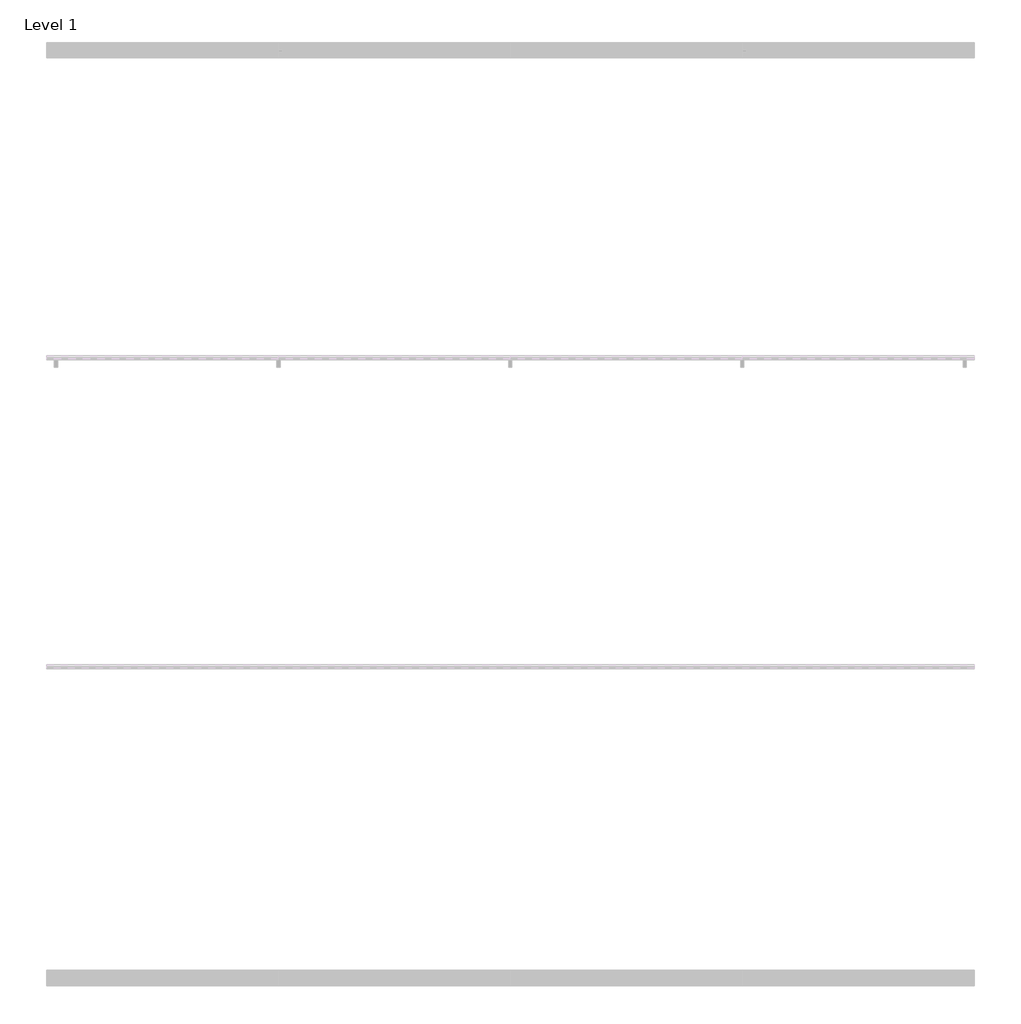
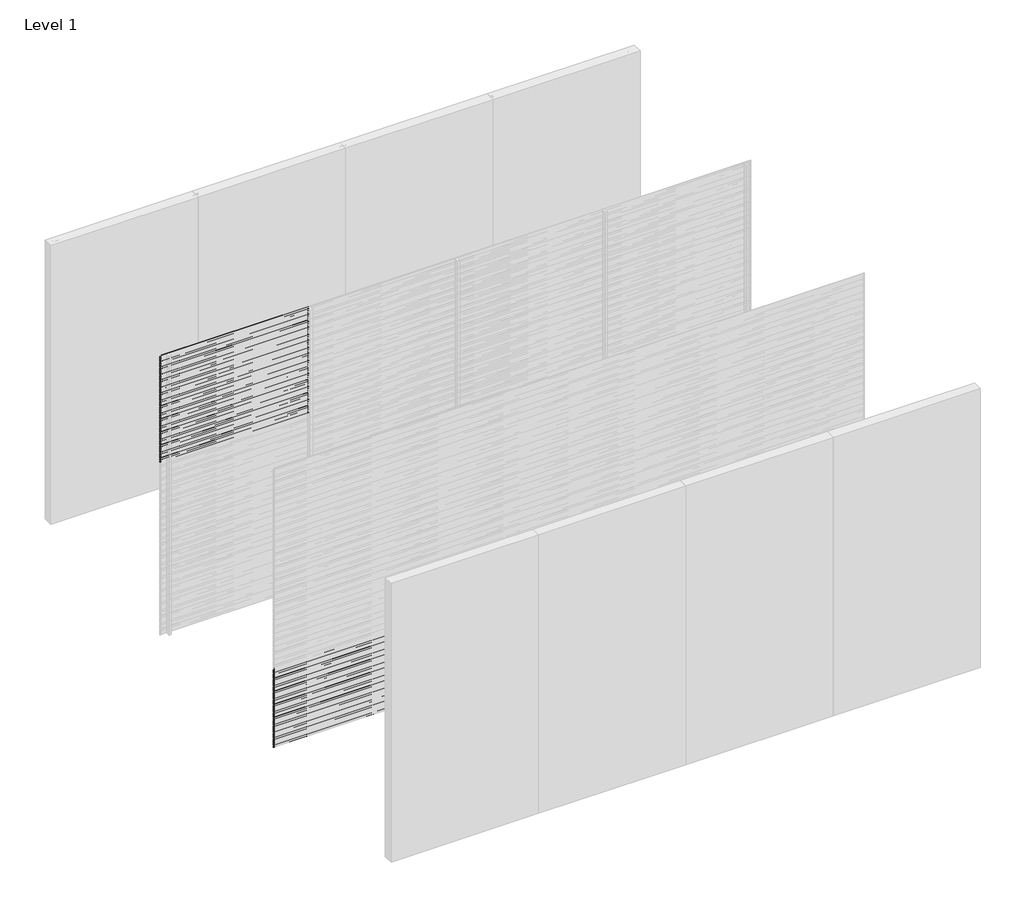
# One storey, part 18 of 31: 99 proxies.
"""IFC4 building model written with IfcOpenShell, lengths in millimetres."""

from ifc_helpers import new_model, si_unit, frame, origin, place, context, project, spatial, polyline, outline, extrude, element, save

model = new_model("IFC4")

# Units and contexts
model_context = context("Model", 3, world=origin())
ifc_project = project(units=[si_unit("LENGTHUNIT", "METRE", prefix="MILLI")], contexts=[model_context])

# Site, building, storey
site = spatial("IfcSite", under=ifc_project)
building = spatial("IfcBuilding", under=site)
storey = spatial("IfcBuildingStorey", under=building, Name="Level 1", Elevation=0.0)

# Proxies
placement = place(None, origin())
element("IfcBuildingElementProxy", 1, Name="Wall Sweeps", at=placement, inside=storey, context=model_context, shape_type="SweptSolid", body=[
    extrude(outline(polyline([(-5995.0, 3000.0), (-5995.0, 2988.942893), (-5976.0, 2973.0), (-5976.0, 2960.0), (-5997.0, 2977.6210923), (-5997.0, 3000.0), (-5995.0, 3000.0)])), frame((0.0, 0.0, 0.0), z_axis=(1.0, 0.0, 0.0), x_axis=(0.0, 1.0, 0.0)), (0.0, 0.0, 1.0), 1500.0),
])
element("IfcBuildingElementProxy", 2, Name="Wall Sweeps", at=placement, inside=storey, context=model_context, shape_type="SweptSolid", body=[
    extrude(outline(polyline([(-5995.0, 2980.0), (-5995.0, 2968.942893), (-5976.0, 2953.0), (-5976.0, 2940.0), (-5997.0, 2957.6210923), (-5997.0, 2980.0), (-5995.0, 2980.0)])), frame((0.0, 0.0, 0.0), z_axis=(1.0, 0.0, 0.0), x_axis=(0.0, 1.0, 0.0)), (0.0, 0.0, 1.0), 1500.0),
])
element("IfcBuildingElementProxy", 3, Name="Wall Sweeps", at=placement, inside=storey, context=model_context, shape_type="SweptSolid", body=[
    extrude(outline(polyline([(-5995.0, 2960.0), (-5995.0, 2948.942893), (-5976.0, 2933.0), (-5976.0, 2920.0), (-5997.0, 2937.6210923), (-5997.0, 2960.0), (-5995.0, 2960.0)])), frame((0.0, 0.0, 0.0), z_axis=(1.0, 0.0, 0.0), x_axis=(0.0, 1.0, 0.0)), (0.0, 0.0, 1.0), 1500.0),
])
element("IfcBuildingElementProxy", 4, Name="Wall Sweeps", at=placement, inside=storey, context=model_context, shape_type="SweptSolid", body=[
    extrude(outline(polyline([(-5995.0, 2940.0), (-5995.0, 2928.942893), (-5976.0, 2913.0), (-5976.0, 2900.0), (-5997.0, 2917.6210923), (-5997.0, 2940.0), (-5995.0, 2940.0)])), frame((0.0, 0.0, 0.0), z_axis=(1.0, 0.0, 0.0), x_axis=(0.0, 1.0, 0.0)), (0.0, 0.0, 1.0), 1500.0),
])
element("IfcBuildingElementProxy", 5, Name="Wall Sweeps", at=placement, inside=storey, context=model_context, shape_type="SweptSolid", body=[
    extrude(outline(polyline([(-5995.0, 2920.0), (-5995.0, 2908.942893), (-5976.0, 2893.0), (-5976.0, 2880.0), (-5997.0, 2897.6210923), (-5997.0, 2920.0), (-5995.0, 2920.0)])), frame((0.0, 0.0, 0.0), z_axis=(1.0, 0.0, 0.0), x_axis=(0.0, 1.0, 0.0)), (0.0, 0.0, 1.0), 1500.0),
])
element("IfcBuildingElementProxy", 6, Name="Wall Sweeps", at=placement, inside=storey, context=model_context, shape_type="SweptSolid", body=[
    extrude(outline(polyline([(-5995.0, 2900.0), (-5995.0, 2888.942893), (-5976.0, 2873.0), (-5976.0, 2860.0), (-5997.0, 2877.6210923), (-5997.0, 2900.0), (-5995.0, 2900.0)])), frame((0.0, 0.0, 0.0), z_axis=(1.0, 0.0, 0.0), x_axis=(0.0, 1.0, 0.0)), (0.0, 0.0, 1.0), 1500.0),
])
element("IfcBuildingElementProxy", 7, Name="Wall Sweeps", at=placement, inside=storey, context=model_context, shape_type="SweptSolid", body=[
    extrude(outline(polyline([(-5995.0, 2880.0), (-5995.0, 2868.942893), (-5976.0, 2853.0), (-5976.0, 2840.0), (-5997.0, 2857.6210923), (-5997.0, 2880.0), (-5995.0, 2880.0)])), frame((0.0, 0.0, 0.0), z_axis=(1.0, 0.0, 0.0), x_axis=(0.0, 1.0, 0.0)), (0.0, 0.0, 1.0), 1500.0),
])
element("IfcBuildingElementProxy", 8, Name="Wall Sweeps", at=placement, inside=storey, context=model_context, shape_type="SweptSolid", body=[
    extrude(outline(polyline([(-5995.0, 2860.0), (-5995.0, 2848.942893), (-5976.0, 2833.0), (-5976.0, 2820.0), (-5997.0, 2837.6210923), (-5997.0, 2860.0), (-5995.0, 2860.0)])), frame((0.0, 0.0, 0.0), z_axis=(1.0, 0.0, 0.0), x_axis=(0.0, 1.0, 0.0)), (0.0, 0.0, 1.0), 1500.0),
])
element("IfcBuildingElementProxy", 9, Name="Wall Sweeps", at=placement, inside=storey, context=model_context, shape_type="SweptSolid", body=[
    extrude(outline(polyline([(-5995.0, 2840.0), (-5995.0, 2828.942893), (-5976.0, 2813.0), (-5976.0, 2800.0), (-5997.0, 2817.6210923), (-5997.0, 2840.0), (-5995.0, 2840.0)])), frame((0.0, 0.0, 0.0), z_axis=(1.0, 0.0, 0.0), x_axis=(0.0, 1.0, 0.0)), (0.0, 0.0, 1.0), 1500.0),
])
element("IfcBuildingElementProxy", 10, Name="Wall Sweeps", at=placement, inside=storey, context=model_context, shape_type="SweptSolid", body=[
    extrude(outline(polyline([(-5995.0, 2820.0), (-5995.0, 2808.942893), (-5976.0, 2793.0), (-5976.0, 2780.0), (-5997.0, 2797.6210923), (-5997.0, 2820.0), (-5995.0, 2820.0)])), frame((0.0, 0.0, 0.0), z_axis=(1.0, 0.0, 0.0), x_axis=(0.0, 1.0, 0.0)), (0.0, 0.0, 1.0), 1500.0),
])
element("IfcBuildingElementProxy", 11, Name="Wall Sweeps", at=placement, inside=storey, context=model_context, shape_type="SweptSolid", body=[
    extrude(outline(polyline([(-5995.0, 2800.0), (-5995.0, 2788.942893), (-5976.0, 2773.0), (-5976.0, 2760.0), (-5997.0, 2777.6210923), (-5997.0, 2800.0), (-5995.0, 2800.0)])), frame((0.0, 0.0, 0.0), z_axis=(1.0, 0.0, 0.0), x_axis=(0.0, 1.0, 0.0)), (0.0, 0.0, 1.0), 1500.0),
])
element("IfcBuildingElementProxy", 12, Name="Wall Sweeps", at=placement, inside=storey, context=model_context, shape_type="SweptSolid", body=[
    extrude(outline(polyline([(-5995.0, 2780.0), (-5995.0, 2768.942893), (-5976.0, 2753.0), (-5976.0, 2740.0), (-5997.0, 2757.6210923), (-5997.0, 2780.0), (-5995.0, 2780.0)])), frame((0.0, 0.0, 0.0), z_axis=(1.0, 0.0, 0.0), x_axis=(0.0, 1.0, 0.0)), (0.0, 0.0, 1.0), 1500.0),
])
element("IfcBuildingElementProxy", 13, Name="Wall Sweeps", at=placement, inside=storey, context=model_context, shape_type="SweptSolid", body=[
    extrude(outline(polyline([(-5995.0, 2760.0), (-5995.0, 2748.942893), (-5976.0, 2733.0), (-5976.0, 2720.0), (-5997.0, 2737.6210923), (-5997.0, 2760.0), (-5995.0, 2760.0)])), frame((0.0, 0.0, 0.0), z_axis=(1.0, 0.0, 0.0), x_axis=(0.0, 1.0, 0.0)), (0.0, 0.0, 1.0), 1500.0),
])
element("IfcBuildingElementProxy", 14, Name="Wall Sweeps", at=placement, inside=storey, context=model_context, shape_type="SweptSolid", body=[
    extrude(outline(polyline([(-5995.0, 2740.0), (-5995.0, 2728.942893), (-5976.0, 2713.0), (-5976.0, 2700.0), (-5997.0, 2717.6210923), (-5997.0, 2740.0), (-5995.0, 2740.0)])), frame((0.0, 0.0, 0.0), z_axis=(1.0, 0.0, 0.0), x_axis=(0.0, 1.0, 0.0)), (0.0, 0.0, 1.0), 1500.0),
])
element("IfcBuildingElementProxy", 15, Name="Wall Sweeps", at=placement, inside=storey, context=model_context, shape_type="SweptSolid", body=[
    extrude(outline(polyline([(-5995.0, 2720.0), (-5995.0, 2708.942893), (-5976.0, 2693.0), (-5976.0, 2680.0), (-5997.0, 2697.6210923), (-5997.0, 2720.0), (-5995.0, 2720.0)])), frame((0.0, 0.0, 0.0), z_axis=(1.0, 0.0, 0.0), x_axis=(0.0, 1.0, 0.0)), (0.0, 0.0, 1.0), 1500.0),
])
element("IfcBuildingElementProxy", 16, Name="Wall Sweeps", at=placement, inside=storey, context=model_context, shape_type="SweptSolid", body=[
    extrude(outline(polyline([(-5995.0, 2700.0), (-5995.0, 2688.942893), (-5976.0, 2673.0), (-5976.0, 2660.0), (-5997.0, 2677.6210923), (-5997.0, 2700.0), (-5995.0, 2700.0)])), frame((0.0, 0.0, 0.0), z_axis=(1.0, 0.0, 0.0), x_axis=(0.0, 1.0, 0.0)), (0.0, 0.0, 1.0), 1500.0),
])
element("IfcBuildingElementProxy", 17, Name="Wall Sweeps", at=placement, inside=storey, context=model_context, shape_type="SweptSolid", body=[
    extrude(outline(polyline([(-5995.0, 2680.0), (-5995.0, 2668.942893), (-5976.0, 2653.0), (-5976.0, 2640.0), (-5997.0, 2657.6210923), (-5997.0, 2680.0), (-5995.0, 2680.0)])), frame((0.0, 0.0, 0.0), z_axis=(1.0, 0.0, 0.0), x_axis=(0.0, 1.0, 0.0)), (0.0, 0.0, 1.0), 1500.0),
])
element("IfcBuildingElementProxy", 18, Name="Wall Sweeps", at=placement, inside=storey, context=model_context, shape_type="SweptSolid", body=[
    extrude(outline(polyline([(-5995.0, 2660.0), (-5995.0, 2648.942893), (-5976.0, 2633.0), (-5976.0, 2620.0), (-5997.0, 2637.6210923), (-5997.0, 2660.0), (-5995.0, 2660.0)])), frame((0.0, 0.0, 0.0), z_axis=(1.0, 0.0, 0.0), x_axis=(0.0, 1.0, 0.0)), (0.0, 0.0, 1.0), 1500.0),
])
element("IfcBuildingElementProxy", 19, Name="Wall Sweeps", at=placement, inside=storey, context=model_context, shape_type="SweptSolid", body=[
    extrude(outline(polyline([(-5995.0, 2640.0), (-5995.0, 2628.942893), (-5976.0, 2613.0), (-5976.0, 2600.0), (-5997.0, 2617.6210923), (-5997.0, 2640.0), (-5995.0, 2640.0)])), frame((0.0, 0.0, 0.0), z_axis=(1.0, 0.0, 0.0), x_axis=(0.0, 1.0, 0.0)), (0.0, 0.0, 1.0), 1500.0),
])
element("IfcBuildingElementProxy", 20, Name="Wall Sweeps", at=placement, inside=storey, context=model_context, shape_type="SweptSolid", body=[
    extrude(outline(polyline([(-5995.0, 2620.0), (-5995.0, 2608.942893), (-5976.0, 2593.0), (-5976.0, 2580.0), (-5997.0, 2597.6210923), (-5997.0, 2620.0), (-5995.0, 2620.0)])), frame((0.0, 0.0, 0.0), z_axis=(1.0, 0.0, 0.0), x_axis=(0.0, 1.0, 0.0)), (0.0, 0.0, 1.0), 1500.0),
])
element("IfcBuildingElementProxy", 21, Name="Wall Sweeps", at=placement, inside=storey, context=model_context, shape_type="SweptSolid", body=[
    extrude(outline(polyline([(-5995.0, 2600.0), (-5995.0, 2588.942893), (-5976.0, 2573.0), (-5976.0, 2560.0), (-5997.0, 2577.6210923), (-5997.0, 2600.0), (-5995.0, 2600.0)])), frame((0.0, 0.0, 0.0), z_axis=(1.0, 0.0, 0.0), x_axis=(0.0, 1.0, 0.0)), (0.0, 0.0, 1.0), 1500.0),
])
element("IfcBuildingElementProxy", 22, Name="Wall Sweeps", at=placement, inside=storey, context=model_context, shape_type="SweptSolid", body=[
    extrude(outline(polyline([(-5995.0, 2580.0), (-5995.0, 2568.942893), (-5976.0, 2553.0), (-5976.0, 2540.0), (-5997.0, 2557.6210923), (-5997.0, 2580.0), (-5995.0, 2580.0)])), frame((0.0, 0.0, 0.0), z_axis=(1.0, 0.0, 0.0), x_axis=(0.0, 1.0, 0.0)), (0.0, 0.0, 1.0), 1500.0),
])
element("IfcBuildingElementProxy", 23, Name="Wall Sweeps", at=placement, inside=storey, context=model_context, shape_type="SweptSolid", body=[
    extrude(outline(polyline([(-5995.0, 2560.0), (-5995.0, 2548.942893), (-5976.0, 2533.0), (-5976.0, 2520.0), (-5997.0, 2537.6210923), (-5997.0, 2560.0), (-5995.0, 2560.0)])), frame((0.0, 0.0, 0.0), z_axis=(1.0, 0.0, 0.0), x_axis=(0.0, 1.0, 0.0)), (0.0, 0.0, 1.0), 1500.0),
])
element("IfcBuildingElementProxy", 24, Name="Wall Sweeps", at=placement, inside=storey, context=model_context, shape_type="SweptSolid", body=[
    extrude(outline(polyline([(-5995.0, 2540.0), (-5995.0, 2528.942893), (-5976.0, 2513.0), (-5976.0, 2500.0), (-5997.0, 2517.6210923), (-5997.0, 2540.0), (-5995.0, 2540.0)])), frame((0.0, 0.0, 0.0), z_axis=(1.0, 0.0, 0.0), x_axis=(0.0, 1.0, 0.0)), (0.0, 0.0, 1.0), 1500.0),
])
element("IfcBuildingElementProxy", 25, Name="Wall Sweeps", at=placement, inside=storey, context=model_context, shape_type="SweptSolid", body=[
    extrude(outline(polyline([(-5995.0, 2520.0), (-5995.0, 2508.942893), (-5976.0, 2493.0), (-5976.0, 2480.0), (-5997.0, 2497.6210923), (-5997.0, 2520.0), (-5995.0, 2520.0)])), frame((0.0, 0.0, 0.0), z_axis=(1.0, 0.0, 0.0), x_axis=(0.0, 1.0, 0.0)), (0.0, 0.0, 1.0), 1500.0),
])
element("IfcBuildingElementProxy", 26, Name="Wall Sweeps", at=placement, inside=storey, context=model_context, shape_type="SweptSolid", body=[
    extrude(outline(polyline([(-5995.0, 2500.0), (-5995.0, 2488.942893), (-5976.0, 2473.0), (-5976.0, 2460.0), (-5997.0, 2477.6210923), (-5997.0, 2500.0), (-5995.0, 2500.0)])), frame((0.0, 0.0, 0.0), z_axis=(1.0, 0.0, 0.0), x_axis=(0.0, 1.0, 0.0)), (0.0, 0.0, 1.0), 1500.0),
])
element("IfcBuildingElementProxy", 27, Name="Wall Sweeps", at=placement, inside=storey, context=model_context, shape_type="SweptSolid", body=[
    extrude(outline(polyline([(-5995.0, 2480.0), (-5995.0, 2468.942893), (-5976.0, 2453.0), (-5976.0, 2440.0), (-5997.0, 2457.6210923), (-5997.0, 2480.0), (-5995.0, 2480.0)])), frame((0.0, 0.0, 0.0), z_axis=(1.0, 0.0, 0.0), x_axis=(0.0, 1.0, 0.0)), (0.0, 0.0, 1.0), 1500.0),
])
element("IfcBuildingElementProxy", 28, Name="Wall Sweeps", at=placement, inside=storey, context=model_context, shape_type="SweptSolid", body=[
    extrude(outline(polyline([(-5995.0, 2460.0), (-5995.0, 2448.942893), (-5976.0, 2433.0), (-5976.0, 2420.0), (-5997.0, 2437.6210923), (-5997.0, 2460.0), (-5995.0, 2460.0)])), frame((0.0, 0.0, 0.0), z_axis=(1.0, 0.0, 0.0), x_axis=(0.0, 1.0, 0.0)), (0.0, 0.0, 1.0), 1500.0),
])
element("IfcBuildingElementProxy", 29, Name="Wall Sweeps", at=placement, inside=storey, context=model_context, shape_type="SweptSolid", body=[
    extrude(outline(polyline([(-5995.0, 2440.0), (-5995.0, 2428.942893), (-5976.0, 2413.0), (-5976.0, 2400.0), (-5997.0, 2417.6210923), (-5997.0, 2440.0), (-5995.0, 2440.0)])), frame((0.0, 0.0, 0.0), z_axis=(1.0, 0.0, 0.0), x_axis=(0.0, 1.0, 0.0)), (0.0, 0.0, 1.0), 1500.0),
])
element("IfcBuildingElementProxy", 30, Name="Wall Sweeps", at=placement, inside=storey, context=model_context, shape_type="SweptSolid", body=[
    extrude(outline(polyline([(-5995.0, 2420.0), (-5995.0, 2408.942893), (-5976.0, 2393.0), (-5976.0, 2380.0), (-5997.0, 2397.6210923), (-5997.0, 2420.0), (-5995.0, 2420.0)])), frame((0.0, 0.0, 0.0), z_axis=(1.0, 0.0, 0.0), x_axis=(0.0, 1.0, 0.0)), (0.0, 0.0, 1.0), 1500.0),
])
element("IfcBuildingElementProxy", 31, Name="Wall Sweeps", at=placement, inside=storey, context=model_context, shape_type="SweptSolid", body=[
    extrude(outline(polyline([(-5995.0, 2400.0), (-5995.0, 2388.942893), (-5976.0, 2373.0), (-5976.0, 2360.0), (-5997.0, 2377.6210923), (-5997.0, 2400.0), (-5995.0, 2400.0)])), frame((0.0, 0.0, 0.0), z_axis=(1.0, 0.0, 0.0), x_axis=(0.0, 1.0, 0.0)), (0.0, 0.0, 1.0), 1500.0),
])
element("IfcBuildingElementProxy", 32, Name="Wall Sweeps", at=placement, inside=storey, context=model_context, shape_type="SweptSolid", body=[
    extrude(outline(polyline([(-5995.0, 2380.0), (-5995.0, 2368.942893), (-5976.0, 2353.0), (-5976.0, 2340.0), (-5997.0, 2357.6210923), (-5997.0, 2380.0), (-5995.0, 2380.0)])), frame((0.0, 0.0, 0.0), z_axis=(1.0, 0.0, 0.0), x_axis=(0.0, 1.0, 0.0)), (0.0, 0.0, 1.0), 1500.0),
])
element("IfcBuildingElementProxy", 33, Name="Wall Sweeps", at=placement, inside=storey, context=model_context, shape_type="SweptSolid", body=[
    extrude(outline(polyline([(-5995.0, 2360.0), (-5995.0, 2348.942893), (-5976.0, 2333.0), (-5976.0, 2320.0), (-5997.0, 2337.6210923), (-5997.0, 2360.0), (-5995.0, 2360.0)])), frame((0.0, 0.0, 0.0), z_axis=(1.0, 0.0, 0.0), x_axis=(0.0, 1.0, 0.0)), (0.0, 0.0, 1.0), 1500.0),
])
element("IfcBuildingElementProxy", 34, Name="Wall Sweeps", at=placement, inside=storey, context=model_context, shape_type="SweptSolid", body=[
    extrude(outline(polyline([(-5995.0, 2340.0), (-5995.0, 2328.942893), (-5976.0, 2313.0), (-5976.0, 2300.0), (-5997.0, 2317.6210923), (-5997.0, 2340.0), (-5995.0, 2340.0)])), frame((0.0, 0.0, 0.0), z_axis=(1.0, 0.0, 0.0), x_axis=(0.0, 1.0, 0.0)), (0.0, 0.0, 1.0), 1500.0),
])
element("IfcBuildingElementProxy", 35, Name="Wall Sweeps", at=placement, inside=storey, context=model_context, shape_type="SweptSolid", body=[
    extrude(outline(polyline([(-5995.0, 2320.0), (-5995.0, 2308.942893), (-5976.0, 2293.0), (-5976.0, 2280.0), (-5997.0, 2297.6210923), (-5997.0, 2320.0), (-5995.0, 2320.0)])), frame((0.0, 0.0, 0.0), z_axis=(1.0, 0.0, 0.0), x_axis=(0.0, 1.0, 0.0)), (0.0, 0.0, 1.0), 1500.0),
])
element("IfcBuildingElementProxy", 36, Name="Wall Sweeps", at=placement, inside=storey, context=model_context, shape_type="SweptSolid", body=[
    extrude(outline(polyline([(-5995.0, 2300.0), (-5995.0, 2288.942893), (-5976.0, 2273.0), (-5976.0, 2260.0), (-5997.0, 2277.6210923), (-5997.0, 2300.0), (-5995.0, 2300.0)])), frame((0.0, 0.0, 0.0), z_axis=(1.0, 0.0, 0.0), x_axis=(0.0, 1.0, 0.0)), (0.0, 0.0, 1.0), 1500.0),
])
element("IfcBuildingElementProxy", 37, Name="Wall Sweeps", at=placement, inside=storey, context=model_context, shape_type="SweptSolid", body=[
    extrude(outline(polyline([(-5995.0, 2280.0), (-5995.0, 2268.942893), (-5976.0, 2253.0), (-5976.0, 2240.0), (-5997.0, 2257.6210923), (-5997.0, 2280.0), (-5995.0, 2280.0)])), frame((0.0, 0.0, 0.0), z_axis=(1.0, 0.0, 0.0), x_axis=(0.0, 1.0, 0.0)), (0.0, 0.0, 1.0), 1500.0),
])
element("IfcBuildingElementProxy", 38, Name="Wall Sweeps", at=placement, inside=storey, context=model_context, shape_type="SweptSolid", body=[
    extrude(outline(polyline([(-5995.0, 2260.0), (-5995.0, 2248.942893), (-5976.0, 2233.0), (-5976.0, 2220.0), (-5997.0, 2237.6210923), (-5997.0, 2260.0), (-5995.0, 2260.0)])), frame((0.0, 0.0, 0.0), z_axis=(1.0, 0.0, 0.0), x_axis=(0.0, 1.0, 0.0)), (0.0, 0.0, 1.0), 1500.0),
])
element("IfcBuildingElementProxy", 39, Name="Wall Sweeps", at=placement, inside=storey, context=model_context, shape_type="SweptSolid", body=[
    extrude(outline(polyline([(-5995.0, 2240.0), (-5995.0, 2228.942893), (-5976.0, 2213.0), (-5976.0, 2200.0), (-5997.0, 2217.6210923), (-5997.0, 2240.0), (-5995.0, 2240.0)])), frame((0.0, 0.0, 0.0), z_axis=(1.0, 0.0, 0.0), x_axis=(0.0, 1.0, 0.0)), (0.0, 0.0, 1.0), 1500.0),
])
element("IfcBuildingElementProxy", 40, Name="Wall Sweeps", at=placement, inside=storey, context=model_context, shape_type="SweptSolid", body=[
    extrude(outline(polyline([(-5995.0, 2220.0), (-5995.0, 2208.942893), (-5976.0, 2193.0), (-5976.0, 2180.0), (-5997.0, 2197.6210923), (-5997.0, 2220.0), (-5995.0, 2220.0)])), frame((0.0, 0.0, 0.0), z_axis=(1.0, 0.0, 0.0), x_axis=(0.0, 1.0, 0.0)), (0.0, 0.0, 1.0), 1500.0),
])
element("IfcBuildingElementProxy", 41, Name="Wall Sweeps", at=placement, inside=storey, context=model_context, shape_type="SweptSolid", body=[
    extrude(outline(polyline([(-5995.0, 2200.0), (-5995.0, 2188.942893), (-5976.0, 2173.0), (-5976.0, 2160.0), (-5997.0, 2177.6210923), (-5997.0, 2200.0), (-5995.0, 2200.0)])), frame((0.0, 0.0, 0.0), z_axis=(1.0, 0.0, 0.0), x_axis=(0.0, 1.0, 0.0)), (0.0, 0.0, 1.0), 1500.0),
])
element("IfcBuildingElementProxy", 42, Name="Wall Sweeps", at=placement, inside=storey, context=model_context, shape_type="SweptSolid", body=[
    extrude(outline(polyline([(-5995.0, 2180.0), (-5995.0, 2168.942893), (-5976.0, 2153.0), (-5976.0, 2140.0), (-5997.0, 2157.6210923), (-5997.0, 2180.0), (-5995.0, 2180.0)])), frame((0.0, 0.0, 0.0), z_axis=(1.0, 0.0, 0.0), x_axis=(0.0, 1.0, 0.0)), (0.0, 0.0, 1.0), 1500.0),
])
element("IfcBuildingElementProxy", 43, Name="Wall Sweeps", at=placement, inside=storey, context=model_context, shape_type="SweptSolid", body=[
    extrude(outline(polyline([(-5995.0, 2160.0), (-5995.0, 2148.942893), (-5976.0, 2133.0), (-5976.0, 2120.0), (-5997.0, 2137.6210923), (-5997.0, 2160.0), (-5995.0, 2160.0)])), frame((0.0, 0.0, 0.0), z_axis=(1.0, 0.0, 0.0), x_axis=(0.0, 1.0, 0.0)), (0.0, 0.0, 1.0), 1500.0),
])
element("IfcBuildingElementProxy", 44, Name="Wall Sweeps", at=placement, inside=storey, context=model_context, shape_type="SweptSolid", body=[
    extrude(outline(polyline([(-5995.0, 2140.0), (-5995.0, 2128.942893), (-5976.0, 2113.0), (-5976.0, 2100.0), (-5997.0, 2117.6210923), (-5997.0, 2140.0), (-5995.0, 2140.0)])), frame((0.0, 0.0, 0.0), z_axis=(1.0, 0.0, 0.0), x_axis=(0.0, 1.0, 0.0)), (0.0, 0.0, 1.0), 1500.0),
])
element("IfcBuildingElementProxy", 45, Name="Wall Sweeps", at=placement, inside=storey, context=model_context, shape_type="SweptSolid", body=[
    extrude(outline(polyline([(-5995.0, 2120.0), (-5995.0, 2108.942893), (-5976.0, 2093.0), (-5976.0, 2080.0), (-5997.0, 2097.6210923), (-5997.0, 2120.0), (-5995.0, 2120.0)])), frame((0.0, 0.0, 0.0), z_axis=(1.0, 0.0, 0.0), x_axis=(0.0, 1.0, 0.0)), (0.0, 0.0, 1.0), 1500.0),
])
element("IfcBuildingElementProxy", 46, Name="Wall Sweeps", at=placement, inside=storey, context=model_context, shape_type="SweptSolid", body=[
    extrude(outline(polyline([(-5995.0, 2100.0), (-5995.0, 2088.942893), (-5976.0, 2073.0), (-5976.0, 2060.0), (-5997.0, 2077.6210923), (-5997.0, 2100.0), (-5995.0, 2100.0)])), frame((0.0, 0.0, 0.0), z_axis=(1.0, 0.0, 0.0), x_axis=(0.0, 1.0, 0.0)), (0.0, 0.0, 1.0), 1500.0),
])
element("IfcBuildingElementProxy", 47, Name="Wall Sweeps", at=placement, inside=storey, context=model_context, shape_type="SweptSolid", body=[
    extrude(outline(polyline([(-5995.0, 2080.0), (-5995.0, 2068.942893), (-5976.0, 2053.0), (-5976.0, 2040.0), (-5997.0, 2057.6210923), (-5997.0, 2080.0), (-5995.0, 2080.0)])), frame((0.0, 0.0, 0.0), z_axis=(1.0, 0.0, 0.0), x_axis=(0.0, 1.0, 0.0)), (0.0, 0.0, 1.0), 1500.0),
])
element("IfcBuildingElementProxy", 48, Name="Wall Sweeps", at=placement, inside=storey, context=model_context, shape_type="SweptSolid", body=[
    extrude(outline(polyline([(-5995.0, 2060.0), (-5995.0, 2048.942893), (-5976.0, 2033.0), (-5976.0, 2020.0), (-5997.0, 2037.6210923), (-5997.0, 2060.0), (-5995.0, 2060.0)])), frame((0.0, 0.0, 0.0), z_axis=(1.0, 0.0, 0.0), x_axis=(0.0, 1.0, 0.0)), (0.0, 0.0, 1.0), 1500.0),
])
element("IfcBuildingElementProxy", 49, Name="Wall Sweeps", at=placement, inside=storey, context=model_context, shape_type="SweptSolid", body=[
    extrude(outline(polyline([(-5995.0, 2040.0), (-5995.0, 2028.942893), (-5976.0, 2013.0), (-5976.0, 2000.0), (-5997.0, 2017.6210923), (-5997.0, 2040.0), (-5995.0, 2040.0)])), frame((0.0, 0.0, 0.0), z_axis=(1.0, 0.0, 0.0), x_axis=(0.0, 1.0, 0.0)), (0.0, 0.0, 1.0), 1500.0),
])
element("IfcBuildingElementProxy", 50, Name="Wall Sweeps", at=placement, inside=storey, context=model_context, shape_type="SweptSolid", body=[
    extrude(outline(polyline([(-5995.0, 2020.0), (-5995.0, 2008.942893), (-5976.0, 1993.0), (-5976.0, 1980.0), (-5997.0, 1997.6210923), (-5997.0, 2020.0), (-5995.0, 2020.0)])), frame((0.0, 0.0, 0.0), z_axis=(1.0, 0.0, 0.0), x_axis=(0.0, 1.0, 0.0)), (0.0, 0.0, 1.0), 1500.0),
])
element("IfcBuildingElementProxy", 51, Name="Wall Sweeps", at=placement, inside=storey, context=model_context, shape_type="SweptSolid", body=[
    extrude(outline(polyline([(-5995.0, 2000.0), (-5995.0, 1988.942893), (-5976.0, 1973.0), (-5976.0, 1960.0), (-5997.0, 1977.6210923), (-5997.0, 2000.0), (-5995.0, 2000.0)])), frame((0.0, 0.0, 0.0), z_axis=(1.0, 0.0, 0.0), x_axis=(0.0, 1.0, 0.0)), (0.0, 0.0, 1.0), 1500.0),
])
element("IfcBuildingElementProxy", 52, Name="Wall Sweeps", at=placement, inside=storey, context=model_context, shape_type="SweptSolid", body=[
    extrude(outline(polyline([(-5995.0, 1980.0), (-5995.0, 1968.942893), (-5976.0, 1953.0), (-5976.0, 1940.0), (-5997.0, 1957.6210923), (-5997.0, 1980.0), (-5995.0, 1980.0)])), frame((0.0, 0.0, 0.0), z_axis=(1.0, 0.0, 0.0), x_axis=(0.0, 1.0, 0.0)), (0.0, 0.0, 1.0), 1500.0),
])
element("IfcBuildingElementProxy", 53, Name="Wall Sweeps", at=placement, inside=storey, context=model_context, shape_type="SweptSolid", body=[
    extrude(outline(polyline([(-5995.0, 1960.0), (-5995.0, 1948.942893), (-5976.0, 1933.0), (-5976.0, 1920.0), (-5997.0, 1937.6210923), (-5997.0, 1960.0), (-5995.0, 1960.0)])), frame((0.0, 0.0, 0.0), z_axis=(1.0, 0.0, 0.0), x_axis=(0.0, 1.0, 0.0)), (0.0, 0.0, 1.0), 1500.0),
])
element("IfcBuildingElementProxy", 54, Name="Wall Sweeps", at=placement, inside=storey, context=model_context, shape_type="SweptSolid", body=[
    extrude(outline(polyline([(-5995.0, 1940.0), (-5995.0, 1928.942893), (-5976.0, 1913.0), (-5976.0, 1900.0), (-5997.0, 1917.6210923), (-5997.0, 1940.0), (-5995.0, 1940.0)])), frame((0.0, 0.0, 0.0), z_axis=(1.0, 0.0, 0.0), x_axis=(0.0, 1.0, 0.0)), (0.0, 0.0, 1.0), 1500.0),
])
element("IfcBuildingElementProxy", 55, Name="Wall Sweeps", at=placement, inside=storey, context=model_context, shape_type="SweptSolid", body=[
    extrude(outline(polyline([(-5995.0, 1920.0), (-5995.0, 1908.942893), (-5976.0, 1893.0), (-5976.0, 1880.0), (-5997.0, 1897.6210923), (-5997.0, 1920.0), (-5995.0, 1920.0)])), frame((0.0, 0.0, 0.0), z_axis=(1.0, 0.0, 0.0), x_axis=(0.0, 1.0, 0.0)), (0.0, 0.0, 1.0), 1500.0),
])
element("IfcBuildingElementProxy", 56, Name="Wall Sweeps", at=placement, inside=storey, context=model_context, shape_type="SweptSolid", body=[
    extrude(outline(polyline([(-5995.0, 1900.0), (-5995.0, 1888.942893), (-5976.0, 1873.0), (-5976.0, 1860.0), (-5997.0, 1877.6210923), (-5997.0, 1900.0), (-5995.0, 1900.0)])), frame((0.0, 0.0, 0.0), z_axis=(1.0, 0.0, 0.0), x_axis=(0.0, 1.0, 0.0)), (0.0, 0.0, 1.0), 1500.0),
])
element("IfcBuildingElementProxy", 57, Name="Wall Sweeps", at=placement, inside=storey, context=model_context, shape_type="SweptSolid", body=[
    extrude(outline(polyline([(-5995.0, 1880.0), (-5995.0, 1868.942893), (-5976.0, 1853.0), (-5976.0, 1840.0), (-5997.0, 1857.6210923), (-5997.0, 1880.0), (-5995.0, 1880.0)])), frame((0.0, 0.0, 0.0), z_axis=(1.0, 0.0, 0.0), x_axis=(0.0, 1.0, 0.0)), (0.0, 0.0, 1.0), 1500.0),
])
element("IfcBuildingElementProxy", 58, Name="Wall Sweeps", at=placement, inside=storey, context=model_context, shape_type="SweptSolid", body=[
    extrude(outline(polyline([(-7995.0, 840.0), (-7995.0, 828.942893), (-7976.0, 813.0), (-7976.0, 800.0), (-7997.0, 817.6210923), (-7997.0, 840.0), (-7995.0, 840.0)])), frame((0.0, 0.0, 0.0), z_axis=(1.0, 0.0, 0.0), x_axis=(0.0, 1.0, 0.0)), (0.0, 0.0, 1.0), 6000.0),
])
element("IfcBuildingElementProxy", 59, Name="Wall Sweeps", at=placement, inside=storey, context=model_context, shape_type="SweptSolid", body=[
    extrude(outline(polyline([(-7995.0, 820.0), (-7995.0, 808.942893), (-7976.0, 793.0), (-7976.0, 780.0), (-7997.0, 797.6210923), (-7997.0, 820.0), (-7995.0, 820.0)])), frame((0.0, 0.0, 0.0), z_axis=(1.0, 0.0, 0.0), x_axis=(0.0, 1.0, 0.0)), (0.0, 0.0, 1.0), 6000.0),
])
element("IfcBuildingElementProxy", 60, Name="Wall Sweeps", at=placement, inside=storey, context=model_context, shape_type="SweptSolid", body=[
    extrude(outline(polyline([(-7995.0, 800.0), (-7995.0, 788.942893), (-7976.0, 773.0), (-7976.0, 760.0), (-7997.0, 777.6210923), (-7997.0, 800.0), (-7995.0, 800.0)])), frame((0.0, 0.0, 0.0), z_axis=(1.0, 0.0, 0.0), x_axis=(0.0, 1.0, 0.0)), (0.0, 0.0, 1.0), 6000.0),
])
element("IfcBuildingElementProxy", 61, Name="Wall Sweeps", at=placement, inside=storey, context=model_context, shape_type="SweptSolid", body=[
    extrude(outline(polyline([(-7995.0, 780.0), (-7995.0, 768.942893), (-7976.0, 753.0), (-7976.0, 740.0), (-7997.0, 757.6210923), (-7997.0, 780.0), (-7995.0, 780.0)])), frame((0.0, 0.0, 0.0), z_axis=(1.0, 0.0, 0.0), x_axis=(0.0, 1.0, 0.0)), (0.0, 0.0, 1.0), 6000.0),
])
element("IfcBuildingElementProxy", 62, Name="Wall Sweeps", at=placement, inside=storey, context=model_context, shape_type="SweptSolid", body=[
    extrude(outline(polyline([(-7995.0, 760.0), (-7995.0, 748.942893), (-7976.0, 733.0), (-7976.0, 720.0), (-7997.0, 737.6210923), (-7997.0, 760.0), (-7995.0, 760.0)])), frame((0.0, 0.0, 0.0), z_axis=(1.0, 0.0, 0.0), x_axis=(0.0, 1.0, 0.0)), (0.0, 0.0, 1.0), 6000.0),
])
element("IfcBuildingElementProxy", 63, Name="Wall Sweeps", at=placement, inside=storey, context=model_context, shape_type="SweptSolid", body=[
    extrude(outline(polyline([(-7995.0, 740.0), (-7995.0, 728.942893), (-7976.0, 713.0), (-7976.0, 700.0), (-7997.0, 717.6210923), (-7997.0, 740.0), (-7995.0, 740.0)])), frame((0.0, 0.0, 0.0), z_axis=(1.0, 0.0, 0.0), x_axis=(0.0, 1.0, 0.0)), (0.0, 0.0, 1.0), 6000.0),
])
element("IfcBuildingElementProxy", 64, Name="Wall Sweeps", at=placement, inside=storey, context=model_context, shape_type="SweptSolid", body=[
    extrude(outline(polyline([(-7995.0, 720.0), (-7995.0, 708.942893), (-7976.0, 693.0), (-7976.0, 680.0), (-7997.0, 697.6210923), (-7997.0, 720.0), (-7995.0, 720.0)])), frame((0.0, 0.0, 0.0), z_axis=(1.0, 0.0, 0.0), x_axis=(0.0, 1.0, 0.0)), (0.0, 0.0, 1.0), 6000.0),
])
element("IfcBuildingElementProxy", 65, Name="Wall Sweeps", at=placement, inside=storey, context=model_context, shape_type="SweptSolid", body=[
    extrude(outline(polyline([(-7995.0, 700.0), (-7995.0, 688.942893), (-7976.0, 673.0), (-7976.0, 660.0), (-7997.0, 677.6210923), (-7997.0, 700.0), (-7995.0, 700.0)])), frame((0.0, 0.0, 0.0), z_axis=(1.0, 0.0, 0.0), x_axis=(0.0, 1.0, 0.0)), (0.0, 0.0, 1.0), 6000.0),
])
element("IfcBuildingElementProxy", 66, Name="Wall Sweeps", at=placement, inside=storey, context=model_context, shape_type="SweptSolid", body=[
    extrude(outline(polyline([(-7995.0, 680.0), (-7995.0, 668.942893), (-7976.0, 653.0), (-7976.0, 640.0), (-7997.0, 657.6210923), (-7997.0, 680.0), (-7995.0, 680.0)])), frame((0.0, 0.0, 0.0), z_axis=(1.0, 0.0, 0.0), x_axis=(0.0, 1.0, 0.0)), (0.0, 0.0, 1.0), 6000.0),
])
element("IfcBuildingElementProxy", 67, Name="Wall Sweeps", at=placement, inside=storey, context=model_context, shape_type="SweptSolid", body=[
    extrude(outline(polyline([(-7995.0, 660.0), (-7995.0, 648.942893), (-7976.0, 633.0), (-7976.0, 620.0), (-7997.0, 637.6210923), (-7997.0, 660.0), (-7995.0, 660.0)])), frame((0.0, 0.0, 0.0), z_axis=(1.0, 0.0, 0.0), x_axis=(0.0, 1.0, 0.0)), (0.0, 0.0, 1.0), 6000.0),
])
element("IfcBuildingElementProxy", 68, Name="Wall Sweeps", at=placement, inside=storey, context=model_context, shape_type="SweptSolid", body=[
    extrude(outline(polyline([(-7995.0, 640.0), (-7995.0, 628.942893), (-7976.0, 613.0), (-7976.0, 600.0), (-7997.0, 617.6210923), (-7997.0, 640.0), (-7995.0, 640.0)])), frame((0.0, 0.0, 0.0), z_axis=(1.0, 0.0, 0.0), x_axis=(0.0, 1.0, 0.0)), (0.0, 0.0, 1.0), 6000.0),
])
element("IfcBuildingElementProxy", 69, Name="Wall Sweeps", at=placement, inside=storey, context=model_context, shape_type="SweptSolid", body=[
    extrude(outline(polyline([(-7995.0, 620.0), (-7995.0, 608.942893), (-7976.0, 593.0), (-7976.0, 580.0), (-7997.0, 597.6210923), (-7997.0, 620.0), (-7995.0, 620.0)])), frame((0.0, 0.0, 0.0), z_axis=(1.0, 0.0, 0.0), x_axis=(0.0, 1.0, 0.0)), (0.0, 0.0, 1.0), 6000.0),
])
element("IfcBuildingElementProxy", 70, Name="Wall Sweeps", at=placement, inside=storey, context=model_context, shape_type="SweptSolid", body=[
    extrude(outline(polyline([(-7995.0, 600.0), (-7995.0, 588.942893), (-7976.0, 573.0), (-7976.0, 560.0), (-7997.0, 577.6210923), (-7997.0, 600.0), (-7995.0, 600.0)])), frame((0.0, 0.0, 0.0), z_axis=(1.0, 0.0, 0.0), x_axis=(0.0, 1.0, 0.0)), (0.0, 0.0, 1.0), 6000.0),
])
element("IfcBuildingElementProxy", 71, Name="Wall Sweeps", at=placement, inside=storey, context=model_context, shape_type="SweptSolid", body=[
    extrude(outline(polyline([(-7995.0, 580.0), (-7995.0, 568.942893), (-7976.0, 553.0), (-7976.0, 540.0), (-7997.0, 557.6210923), (-7997.0, 580.0), (-7995.0, 580.0)])), frame((0.0, 0.0, 0.0), z_axis=(1.0, 0.0, 0.0), x_axis=(0.0, 1.0, 0.0)), (0.0, 0.0, 1.0), 6000.0),
])
element("IfcBuildingElementProxy", 72, Name="Wall Sweeps", at=placement, inside=storey, context=model_context, shape_type="SweptSolid", body=[
    extrude(outline(polyline([(-7995.0, 560.0), (-7995.0, 548.942893), (-7976.0, 533.0), (-7976.0, 520.0), (-7997.0, 537.6210923), (-7997.0, 560.0), (-7995.0, 560.0)])), frame((0.0, 0.0, 0.0), z_axis=(1.0, 0.0, 0.0), x_axis=(0.0, 1.0, 0.0)), (0.0, 0.0, 1.0), 6000.0),
])
element("IfcBuildingElementProxy", 73, Name="Wall Sweeps", at=placement, inside=storey, context=model_context, shape_type="SweptSolid", body=[
    extrude(outline(polyline([(-7995.0, 540.0), (-7995.0, 528.942893), (-7976.0, 513.0), (-7976.0, 500.0), (-7997.0, 517.6210923), (-7997.0, 540.0), (-7995.0, 540.0)])), frame((0.0, 0.0, 0.0), z_axis=(1.0, 0.0, 0.0), x_axis=(0.0, 1.0, 0.0)), (0.0, 0.0, 1.0), 6000.0),
])
element("IfcBuildingElementProxy", 74, Name="Wall Sweeps", at=placement, inside=storey, context=model_context, shape_type="SweptSolid", body=[
    extrude(outline(polyline([(-7995.0, 520.0), (-7995.0, 508.942893), (-7976.0, 493.0), (-7976.0, 480.0), (-7997.0, 497.6210923), (-7997.0, 520.0), (-7995.0, 520.0)])), frame((0.0, 0.0, 0.0), z_axis=(1.0, 0.0, 0.0), x_axis=(0.0, 1.0, 0.0)), (0.0, 0.0, 1.0), 6000.0),
])
element("IfcBuildingElementProxy", 75, Name="Wall Sweeps", at=placement, inside=storey, context=model_context, shape_type="SweptSolid", body=[
    extrude(outline(polyline([(-7995.0, 500.0), (-7995.0, 488.942893), (-7976.0, 473.0), (-7976.0, 460.0), (-7997.0, 477.6210923), (-7997.0, 500.0), (-7995.0, 500.0)])), frame((0.0, 0.0, 0.0), z_axis=(1.0, 0.0, 0.0), x_axis=(0.0, 1.0, 0.0)), (0.0, 0.0, 1.0), 6000.0),
])
element("IfcBuildingElementProxy", 76, Name="Wall Sweeps", at=placement, inside=storey, context=model_context, shape_type="SweptSolid", body=[
    extrude(outline(polyline([(-7995.0, 480.0), (-7995.0, 468.942893), (-7976.0, 453.0), (-7976.0, 440.0), (-7997.0, 457.6210923), (-7997.0, 480.0), (-7995.0, 480.0)])), frame((0.0, 0.0, 0.0), z_axis=(1.0, 0.0, 0.0), x_axis=(0.0, 1.0, 0.0)), (0.0, 0.0, 1.0), 6000.0),
])
element("IfcBuildingElementProxy", 77, Name="Wall Sweeps", at=placement, inside=storey, context=model_context, shape_type="SweptSolid", body=[
    extrude(outline(polyline([(-7995.0, 460.0), (-7995.0, 448.942893), (-7976.0, 433.0), (-7976.0, 420.0), (-7997.0, 437.6210923), (-7997.0, 460.0), (-7995.0, 460.0)])), frame((0.0, 0.0, 0.0), z_axis=(1.0, 0.0, 0.0), x_axis=(0.0, 1.0, 0.0)), (0.0, 0.0, 1.0), 6000.0),
])
element("IfcBuildingElementProxy", 78, Name="Wall Sweeps", at=placement, inside=storey, context=model_context, shape_type="SweptSolid", body=[
    extrude(outline(polyline([(-7995.0, 440.0), (-7995.0, 428.942893), (-7976.0, 413.0), (-7976.0, 400.0), (-7997.0, 417.6210923), (-7997.0, 440.0), (-7995.0, 440.0)])), frame((0.0, 0.0, 0.0), z_axis=(1.0, 0.0, 0.0), x_axis=(0.0, 1.0, 0.0)), (0.0, 0.0, 1.0), 6000.0),
])
element("IfcBuildingElementProxy", 79, Name="Wall Sweeps", at=placement, inside=storey, context=model_context, shape_type="SweptSolid", body=[
    extrude(outline(polyline([(-7995.0, 420.0), (-7995.0, 408.942893), (-7976.0, 393.0), (-7976.0, 380.0), (-7997.0, 397.6210923), (-7997.0, 420.0), (-7995.0, 420.0)])), frame((0.0, 0.0, 0.0), z_axis=(1.0, 0.0, 0.0), x_axis=(0.0, 1.0, 0.0)), (0.0, 0.0, 1.0), 6000.0),
])
element("IfcBuildingElementProxy", 80, Name="Wall Sweeps", at=placement, inside=storey, context=model_context, shape_type="SweptSolid", body=[
    extrude(outline(polyline([(-7995.0, 400.0), (-7995.0, 388.942893), (-7976.0, 373.0), (-7976.0, 360.0), (-7997.0, 377.6210923), (-7997.0, 400.0), (-7995.0, 400.0)])), frame((0.0, 0.0, 0.0), z_axis=(1.0, 0.0, 0.0), x_axis=(0.0, 1.0, 0.0)), (0.0, 0.0, 1.0), 6000.0),
])
element("IfcBuildingElementProxy", 81, Name="Wall Sweeps", at=placement, inside=storey, context=model_context, shape_type="SweptSolid", body=[
    extrude(outline(polyline([(-7995.0, 380.0), (-7995.0, 368.942893), (-7976.0, 353.0), (-7976.0, 340.0), (-7997.0, 357.6210923), (-7997.0, 380.0), (-7995.0, 380.0)])), frame((0.0, 0.0, 0.0), z_axis=(1.0, 0.0, 0.0), x_axis=(0.0, 1.0, 0.0)), (0.0, 0.0, 1.0), 6000.0),
])
element("IfcBuildingElementProxy", 82, Name="Wall Sweeps", at=placement, inside=storey, context=model_context, shape_type="SweptSolid", body=[
    extrude(outline(polyline([(-7995.0, 360.0), (-7995.0, 348.942893), (-7976.0, 333.0), (-7976.0, 320.0), (-7997.0, 337.6210923), (-7997.0, 360.0), (-7995.0, 360.0)])), frame((0.0, 0.0, 0.0), z_axis=(1.0, 0.0, 0.0), x_axis=(0.0, 1.0, 0.0)), (0.0, 0.0, 1.0), 6000.0),
])
element("IfcBuildingElementProxy", 83, Name="Wall Sweeps", at=placement, inside=storey, context=model_context, shape_type="SweptSolid", body=[
    extrude(outline(polyline([(-7995.0, 340.0), (-7995.0, 328.942893), (-7976.0, 313.0), (-7976.0, 300.0), (-7997.0, 317.6210923), (-7997.0, 340.0), (-7995.0, 340.0)])), frame((0.0, 0.0, 0.0), z_axis=(1.0, 0.0, 0.0), x_axis=(0.0, 1.0, 0.0)), (0.0, 0.0, 1.0), 6000.0),
])
element("IfcBuildingElementProxy", 84, Name="Wall Sweeps", at=placement, inside=storey, context=model_context, shape_type="SweptSolid", body=[
    extrude(outline(polyline([(-7995.0, 320.0), (-7995.0, 308.942893), (-7976.0, 293.0), (-7976.0, 280.0), (-7997.0, 297.6210923), (-7997.0, 320.0), (-7995.0, 320.0)])), frame((0.0, 0.0, 0.0), z_axis=(1.0, 0.0, 0.0), x_axis=(0.0, 1.0, 0.0)), (0.0, 0.0, 1.0), 6000.0),
])
element("IfcBuildingElementProxy", 85, Name="Wall Sweeps", at=placement, inside=storey, context=model_context, shape_type="SweptSolid", body=[
    extrude(outline(polyline([(-7995.0, 300.0), (-7995.0, 288.942893), (-7976.0, 273.0), (-7976.0, 260.0), (-7997.0, 277.6210923), (-7997.0, 300.0), (-7995.0, 300.0)])), frame((0.0, 0.0, 0.0), z_axis=(1.0, 0.0, 0.0), x_axis=(0.0, 1.0, 0.0)), (0.0, 0.0, 1.0), 6000.0),
])
element("IfcBuildingElementProxy", 86, Name="Wall Sweeps", at=placement, inside=storey, context=model_context, shape_type="SweptSolid", body=[
    extrude(outline(polyline([(-7995.0, 280.0), (-7995.0, 268.942893), (-7976.0, 253.0), (-7976.0, 240.0), (-7997.0, 257.6210923), (-7997.0, 280.0), (-7995.0, 280.0)])), frame((0.0, 0.0, 0.0), z_axis=(1.0, 0.0, 0.0), x_axis=(0.0, 1.0, 0.0)), (0.0, 0.0, 1.0), 6000.0),
])
element("IfcBuildingElementProxy", 87, Name="Wall Sweeps", at=placement, inside=storey, context=model_context, shape_type="SweptSolid", body=[
    extrude(outline(polyline([(-7995.0, 260.0), (-7995.0, 248.942893), (-7976.0, 233.0), (-7976.0, 220.0), (-7997.0, 237.6210923), (-7997.0, 260.0), (-7995.0, 260.0)])), frame((0.0, 0.0, 0.0), z_axis=(1.0, 0.0, 0.0), x_axis=(0.0, 1.0, 0.0)), (0.0, 0.0, 1.0), 6000.0),
])
element("IfcBuildingElementProxy", 88, Name="Wall Sweeps", at=placement, inside=storey, context=model_context, shape_type="SweptSolid", body=[
    extrude(outline(polyline([(-7995.0, 240.0), (-7995.0, 228.942893), (-7976.0, 213.0), (-7976.0, 200.0), (-7997.0, 217.6210923), (-7997.0, 240.0), (-7995.0, 240.0)])), frame((0.0, 0.0, 0.0), z_axis=(1.0, 0.0, 0.0), x_axis=(0.0, 1.0, 0.0)), (0.0, 0.0, 1.0), 6000.0),
])
element("IfcBuildingElementProxy", 89, Name="Wall Sweeps", at=placement, inside=storey, context=model_context, shape_type="SweptSolid", body=[
    extrude(outline(polyline([(-7995.0, 220.0), (-7995.0, 208.942893), (-7976.0, 193.0), (-7976.0, 180.0), (-7997.0, 197.6210923), (-7997.0, 220.0), (-7995.0, 220.0)])), frame((0.0, 0.0, 0.0), z_axis=(1.0, 0.0, 0.0), x_axis=(0.0, 1.0, 0.0)), (0.0, 0.0, 1.0), 6000.0),
])
element("IfcBuildingElementProxy", 90, Name="Wall Sweeps", at=placement, inside=storey, context=model_context, shape_type="SweptSolid", body=[
    extrude(outline(polyline([(-7995.0, 200.0), (-7995.0, 188.942893), (-7976.0, 173.0), (-7976.0, 160.0), (-7997.0, 177.6210923), (-7997.0, 200.0), (-7995.0, 200.0)])), frame((0.0, 0.0, 0.0), z_axis=(1.0, 0.0, 0.0), x_axis=(0.0, 1.0, 0.0)), (0.0, 0.0, 1.0), 6000.0),
])
element("IfcBuildingElementProxy", 91, Name="Wall Sweeps", at=placement, inside=storey, context=model_context, shape_type="SweptSolid", body=[
    extrude(outline(polyline([(-7995.0, 180.0), (-7995.0, 168.942893), (-7976.0, 153.0), (-7976.0, 140.0), (-7997.0, 157.6210923), (-7997.0, 180.0), (-7995.0, 180.0)])), frame((0.0, 0.0, 0.0), z_axis=(1.0, 0.0, 0.0), x_axis=(0.0, 1.0, 0.0)), (0.0, 0.0, 1.0), 6000.0),
])
element("IfcBuildingElementProxy", 92, Name="Wall Sweeps", at=placement, inside=storey, context=model_context, shape_type="SweptSolid", body=[
    extrude(outline(polyline([(-7995.0, 160.0), (-7995.0, 148.942893), (-7976.0, 133.0), (-7976.0, 120.0), (-7997.0, 137.6210923), (-7997.0, 160.0), (-7995.0, 160.0)])), frame((0.0, 0.0, 0.0), z_axis=(1.0, 0.0, 0.0), x_axis=(0.0, 1.0, 0.0)), (0.0, 0.0, 1.0), 6000.0),
])
element("IfcBuildingElementProxy", 93, Name="Wall Sweeps", at=placement, inside=storey, context=model_context, shape_type="SweptSolid", body=[
    extrude(outline(polyline([(-7995.0, 140.0), (-7995.0, 128.942893), (-7976.0, 113.0), (-7976.0, 100.0), (-7997.0, 117.6210923), (-7997.0, 140.0), (-7995.0, 140.0)])), frame((0.0, 0.0, 0.0), z_axis=(1.0, 0.0, 0.0), x_axis=(0.0, 1.0, 0.0)), (0.0, 0.0, 1.0), 6000.0),
])
element("IfcBuildingElementProxy", 94, Name="Wall Sweeps", at=placement, inside=storey, context=model_context, shape_type="SweptSolid", body=[
    extrude(outline(polyline([(-7995.0, 120.0), (-7995.0, 108.942893), (-7976.0, 93.0), (-7976.0, 80.0), (-7997.0, 97.6210923), (-7997.0, 120.0), (-7995.0, 120.0)])), frame((0.0, 0.0, 0.0), z_axis=(1.0, 0.0, 0.0), x_axis=(0.0, 1.0, 0.0)), (0.0, 0.0, 1.0), 6000.0),
])
element("IfcBuildingElementProxy", 95, Name="Wall Sweeps", at=placement, inside=storey, context=model_context, shape_type="SweptSolid", body=[
    extrude(outline(polyline([(-7995.0, 100.0), (-7995.0, 88.942893), (-7976.0, 73.0), (-7976.0, 60.0), (-7997.0, 77.6210923), (-7997.0, 100.0), (-7995.0, 100.0)])), frame((0.0, 0.0, 0.0), z_axis=(1.0, 0.0, 0.0), x_axis=(0.0, 1.0, 0.0)), (0.0, 0.0, 1.0), 6000.0),
])
element("IfcBuildingElementProxy", 96, Name="Wall Sweeps", at=placement, inside=storey, context=model_context, shape_type="SweptSolid", body=[
    extrude(outline(polyline([(-7995.0, 80.0), (-7995.0, 68.942893), (-7976.0, 53.0), (-7976.0, 40.0), (-7997.0, 57.6210923), (-7997.0, 80.0), (-7995.0, 80.0)])), frame((0.0, 0.0, 0.0), z_axis=(1.0, 0.0, 0.0), x_axis=(0.0, 1.0, 0.0)), (0.0, 0.0, 1.0), 6000.0),
])
element("IfcBuildingElementProxy", 97, Name="Wall Sweeps", at=placement, inside=storey, context=model_context, shape_type="SweptSolid", body=[
    extrude(outline(polyline([(-7995.0, 60.0), (-7995.0, 48.942893), (-7976.0, 33.0), (-7976.0, 20.0), (-7997.0, 37.6210923), (-7997.0, 60.0), (-7995.0, 60.0)])), frame((0.0, 0.0, 0.0), z_axis=(1.0, 0.0, 0.0), x_axis=(0.0, 1.0, 0.0)), (0.0, 0.0, 1.0), 6000.0),
])
element("IfcBuildingElementProxy", 98, Name="Wall Sweeps", at=placement, inside=storey, context=model_context, shape_type="SweptSolid", body=[
    extrude(outline(polyline([(-7995.0, 40.0), (-7995.0, 28.942893), (-7976.0, 13.0), (-7976.0, 0.0), (-7997.0, 17.6210923), (-7997.0, 40.0), (-7995.0, 40.0)])), frame((0.0, 0.0, 0.0), z_axis=(1.0, 0.0, 0.0), x_axis=(0.0, 1.0, 0.0)), (0.0, 0.0, 1.0), 6000.0),
])
element("IfcBuildingElementProxy", 99, Name="Wall Sweeps", at=placement, inside=storey, context=model_context, shape_type="SweptSolid", body=[
    extrude(outline(polyline([(-7995.0, 20.0), (-7995.0, 8.942893), (-7976.0, -7.0), (-7976.0, -20.0), (-7997.0, -2.3789077), (-7997.0, 20.0), (-7995.0, 20.0)])), frame((0.0, 0.0, 0.0), z_axis=(1.0, 0.0, 0.0), x_axis=(0.0, 1.0, 0.0)), (0.0, 0.0, 1.0), 6000.0),
])

save(model, "model.ifc")
